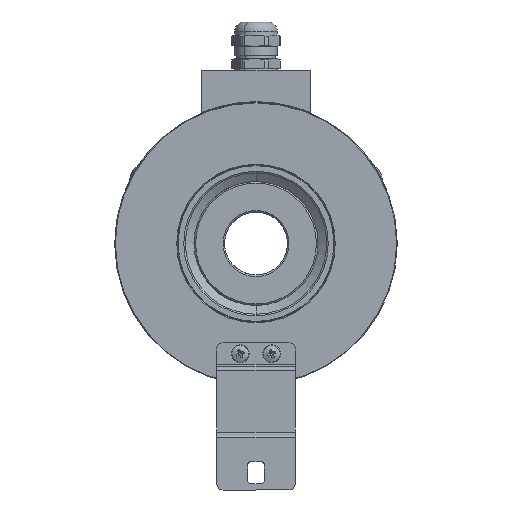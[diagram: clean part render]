
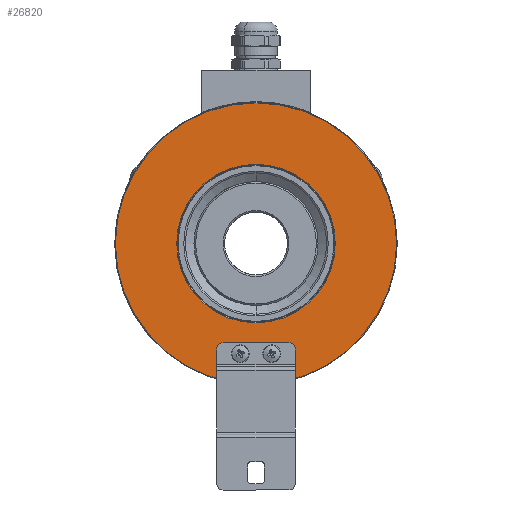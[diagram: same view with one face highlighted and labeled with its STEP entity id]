
A CAD part, front view. The second image highlights one B-rep face of the part: STEP entity #26820.
In plain terms, the highlighted planar face has unit normal (0, -1, 0).
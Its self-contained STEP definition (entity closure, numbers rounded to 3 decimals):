
#1746 = ORIENTED_EDGE ( 'NONE', *, *, #33688, .F. ) ;
#1957 = CARTESIAN_POINT ( 'NONE',  ( -38.798, -12., -22.4 ) ) ;
#3323 = LINE ( 'NONE', #36744, #35742 ) ;
#4134 = LINE ( 'NONE', #29875, #4925 ) ;
#4547 = LINE ( 'NONE', #34426, #5152 ) ;
#4713 = CARTESIAN_POINT ( 'NONE',  ( 22.5, -12., -38.971 ) ) ;
#4925 = VECTOR ( 'NONE', #46335, 1000. ) ;
#4994 = DIRECTION ( 'NONE',  ( 0., 1., 0. ) ) ;
#5152 = VECTOR ( 'NONE', #37980, 1000. ) ;
#5431 = DIRECTION ( 'NONE',  ( 0., -1., 0. ) ) ;
#6014 = ORIENTED_EDGE ( 'NONE', *, *, #9635, .F. ) ;
#6443 = AXIS2_PLACEMENT_3D ( 'NONE', #50162, #20231, #29269 ) ;
#6968 = DIRECTION ( 'NONE',  ( 0., 1., 0. ) ) ;
#7732 = EDGE_CURVE ( 'NONE', #49133, #18210, #23924, .T. ) ;
#8279 = EDGE_LOOP ( 'NONE', ( #50428, #25112 ) ) ;
#9447 = DIRECTION ( 'NONE',  ( 0., -1., 0. ) ) ;
#9635 = EDGE_CURVE ( 'NONE', #11548, #52258, #41530, .T. ) ;
#10272 = CARTESIAN_POINT ( 'NONE',  ( 10.5, -12., -31.58 ) ) ;
#10299 = CARTESIAN_POINT ( 'NONE',  ( 21.867, -12., 12.625 ) ) ;
#11403 = ORIENTED_EDGE ( 'NONE', *, *, #26838, .T. ) ;
#11548 = VERTEX_POINT ( 'NONE', #26711 ) ;
#12206 = DIRECTION ( 'NONE',  ( 1., 0., 0. ) ) ;
#12423 = PLANE ( 'NONE',  #51585 ) ;
#13645 = VECTOR ( 'NONE', #12206, 1000. ) ;
#14090 = DIRECTION ( 'NONE',  ( -0.866, 0., -0.5 ) ) ;
#14373 = CIRCLE ( 'NONE', #38876, 44.8 ) ;
#14626 = CARTESIAN_POINT ( 'NONE',  ( 0., -12., 0. ) ) ;
#15638 = CIRCLE ( 'NONE', #37571, 25.25 ) ;
#16972 = DIRECTION ( 'NONE',  ( 0., 0., 1. ) ) ;
#16994 = CARTESIAN_POINT ( 'NONE',  ( -10.5, -12., -33.58 ) ) ;
#17452 = EDGE_LOOP ( 'NONE', ( #11403, #52751 ) ) ;
#17576 = FACE_OUTER_BOUND ( 'NONE', #8279, .T. ) ;
#18210 = VERTEX_POINT ( 'NONE', #42356 ) ;
#18326 = EDGE_CURVE ( 'NONE', #51416, #25467, #22338, .T. ) ;
#18937 = VERTEX_POINT ( 'NONE', #48956 ) ;
#19474 = VERTEX_POINT ( 'NONE', #33152 ) ;
#19786 = CARTESIAN_POINT ( 'NONE',  ( -10.5, -12., -31.58 ) ) ;
#20231 = DIRECTION ( 'NONE',  ( 0., -1., 0. ) ) ;
#20637 = AXIS2_PLACEMENT_3D ( 'NONE', #14626, #6968, #14090 ) ;
#21218 = CARTESIAN_POINT ( 'NONE',  ( -10.5, -12., -38.543 ) ) ;
#21605 = EDGE_LOOP ( 'NONE', ( #1746, #24975, #37455, #6014, #30407, #34611 ) ) ;
#21692 = CARTESIAN_POINT ( 'NONE',  ( 0., -12., 0. ) ) ;
#21751 = DIRECTION ( 'NONE',  ( -0.866, 0., -0.5 ) ) ;
#22338 = CIRCLE ( 'NONE', #20637, 25.25 ) ;
#22783 = EDGE_CURVE ( 'NONE', #19474, #39471, #53842, .T. ) ;
#23924 = CIRCLE ( 'NONE', #35338, 2. ) ;
#24975 = ORIENTED_EDGE ( 'NONE', *, *, #22783, .F. ) ;
#25112 = ORIENTED_EDGE ( 'NONE', *, *, #47745, .T. ) ;
#25467 = VERTEX_POINT ( 'NONE', #10299 ) ;
#25527 = FACE_BOUND ( 'NONE', #17452, .T. ) ;
#26174 = EDGE_CURVE ( 'NONE', #52258, #19474, #3323, .T. ) ;
#26711 = CARTESIAN_POINT ( 'NONE',  ( -12.5, -12., -38.543 ) ) ;
#26820 = ADVANCED_FACE ( 'NONE', ( #50041, #25527, #17576 ), #12423, .F. ) ;
#26838 = EDGE_CURVE ( 'NONE', #25467, #51416, #15638, .T. ) ;
#29269 = DIRECTION ( 'NONE',  ( 1., 0., 0. ) ) ;
#29875 = CARTESIAN_POINT ( 'NONE',  ( -10.5, -12., -31.58 ) ) ;
#30195 = DIRECTION ( 'NONE',  ( -0.866, 0., -0.5 ) ) ;
#30407 = ORIENTED_EDGE ( 'NONE', *, *, #51227, .F. ) ;
#32236 = CARTESIAN_POINT ( 'NONE',  ( 12.5, -12., -38.543 ) ) ;
#33152 = CARTESIAN_POINT ( 'NONE',  ( 12.5, -12., -33.58 ) ) ;
#33688 = EDGE_CURVE ( 'NONE', #39471, #49133, #4134, .T. ) ;
#33759 = DIRECTION ( 'NONE',  ( 0., -1., 0. ) ) ;
#34426 = CARTESIAN_POINT ( 'NONE',  ( -12.5, -12., -84.58 ) ) ;
#34611 = ORIENTED_EDGE ( 'NONE', *, *, #7732, .F. ) ;
#34984 = AXIS2_PLACEMENT_3D ( 'NONE', #43001, #5431, #51013 ) ;
#35338 = AXIS2_PLACEMENT_3D ( 'NONE', #16994, #33759, #46081 ) ;
#35742 = VECTOR ( 'NONE', #16972, 1000. ) ;
#36744 = CARTESIAN_POINT ( 'NONE',  ( 12.5, -12., -84.58 ) ) ;
#37455 = ORIENTED_EDGE ( 'NONE', *, *, #26174, .F. ) ;
#37571 = AXIS2_PLACEMENT_3D ( 'NONE', #21692, #38412, #30195 ) ;
#37980 = DIRECTION ( 'NONE',  ( 0., 0., -1. ) ) ;
#38412 = DIRECTION ( 'NONE',  ( 0., 1., 0. ) ) ;
#38876 = AXIS2_PLACEMENT_3D ( 'NONE', #50914, #9447, #21751 ) ;
#39471 = VERTEX_POINT ( 'NONE', #10272 ) ;
#40094 = CARTESIAN_POINT ( 'NONE',  ( -21.867, -12., -12.625 ) ) ;
#41530 = LINE ( 'NONE', #21218, #13645 ) ;
#41590 = EDGE_CURVE ( 'NONE', #43230, #18937, #46370, .T. ) ;
#42356 = CARTESIAN_POINT ( 'NONE',  ( -12.5, -12., -33.58 ) ) ;
#43001 = CARTESIAN_POINT ( 'NONE',  ( 0., -12., 0. ) ) ;
#43230 = VERTEX_POINT ( 'NONE', #1957 ) ;
#46081 = DIRECTION ( 'NONE',  ( -1., 0., 0. ) ) ;
#46335 = DIRECTION ( 'NONE',  ( -1., 0., 0. ) ) ;
#46370 = CIRCLE ( 'NONE', #34984, 44.8 ) ;
#47745 = EDGE_CURVE ( 'NONE', #18937, #43230, #14373, .T. ) ;
#48956 = CARTESIAN_POINT ( 'NONE',  ( 38.798, -12., 22.4 ) ) ;
#49133 = VERTEX_POINT ( 'NONE', #19786 ) ;
#50041 = FACE_BOUND ( 'NONE', #21605, .T. ) ;
#50162 = CARTESIAN_POINT ( 'NONE',  ( 10.5, -12., -33.58 ) ) ;
#50428 = ORIENTED_EDGE ( 'NONE', *, *, #41590, .T. ) ;
#50914 = CARTESIAN_POINT ( 'NONE',  ( 0., -12., 0. ) ) ;
#51013 = DIRECTION ( 'NONE',  ( -0.866, 0., -0.5 ) ) ;
#51112 = DIRECTION ( 'NONE',  ( -0.866, 0., -0.5 ) ) ;
#51227 = EDGE_CURVE ( 'NONE', #18210, #11548, #4547, .T. ) ;
#51416 = VERTEX_POINT ( 'NONE', #40094 ) ;
#51585 = AXIS2_PLACEMENT_3D ( 'NONE', #4713, #4994, #51112 ) ;
#52258 = VERTEX_POINT ( 'NONE', #32236 ) ;
#52751 = ORIENTED_EDGE ( 'NONE', *, *, #18326, .T. ) ;
#53842 = CIRCLE ( 'NONE', #6443, 2. ) ;
